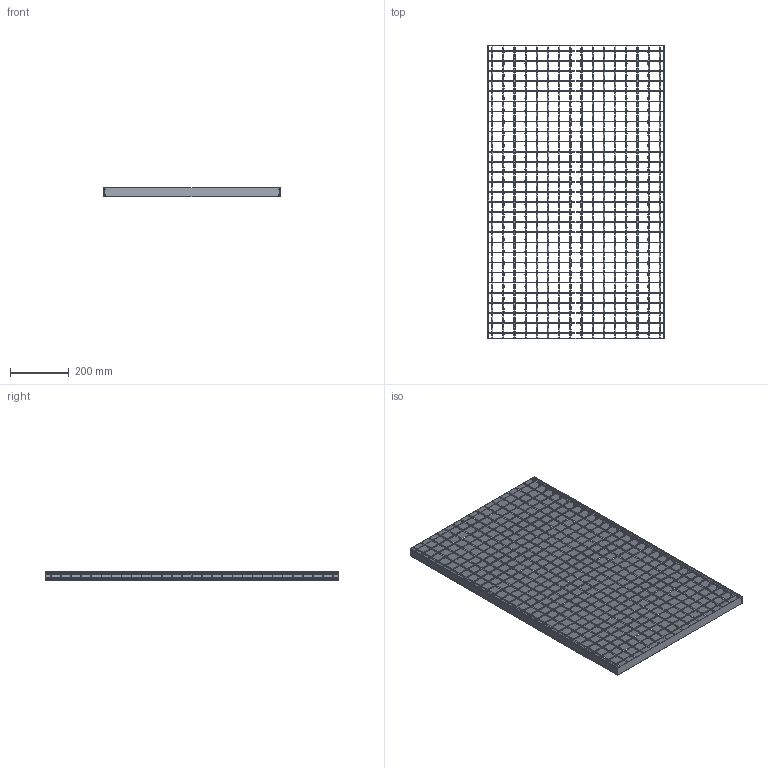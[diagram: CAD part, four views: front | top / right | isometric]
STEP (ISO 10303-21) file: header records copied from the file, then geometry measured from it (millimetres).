
FILE_DESCRIPTION(/* description */ ('STEP AP242','CAx-IF Rec.Pracs.---Representation and Presentation of Product Manufacturing Information (PMI)---4.0---2014-10-13','CAx-IF Rec.Pracs.---3D Tessellated Geometry---0.4---2014-09-14','2;1'),/* implementation_level */ '2;1');
FILE_NAME(/* name */ 'Lichtgitter_Forge_welded_gratings SP 230-34_38-2-1-1-600-1000_(350_1_0)',/* time_stamp */ '2026-04-23T13:28:59+02:00',/* author */ ('License CC BY-ND 4.0'),/* organization */ ('CADENAS'),/* preprocessor_version */ 'ST-DEVELOPER v20',/* originating_system */ 'PARTsolutions',/* authorisation */ ' ');
FILE_SCHEMA (('AP242_MANAGED_MODEL_BASED_3D_ENGINEERING_MIM_LF { 1 0 10303 442 1 1 4 }'));
Length unit declared in the file: millimetre
Products named in the file (5): Lichtgitter_Forge_welded_gratings SP 230-34/38-2-1-1-600-1000_(350_1_
0); Lichtgitter SP 230-34/38-2_(350_1_2_600_1000_Schweisspressroste)_VERT
ICAL_SIDES; Lichtgitter SP 230-34/38-2_(350_1_2_600_1000_Schweisspressroste)_HORI
ZONTAL_C; Lichtgitter SP 230-34/38-2_(350_1_2_600_1000_Schweisspressroste)_HORI
ZONTAL_SIDES; Lichtgitter SP 3.46530-34/38-3.465_(350_1_2_600_1000_Schweisspressros
te)_VERTICAL_C
Assembly tree (49 placements, depth 2):
  Lichtgitter_Forge_welded_gratings SP 230-34/38-2-1-1-600-1000_(350_1_
0)
    Lichtgitter SP 230-34/38-2_(350_1_2_600_1000_Schweisspressroste)_VERT
ICAL_SIDES  x2
    Lichtgitter SP 230-34/38-2_(350_1_2_600_1000_Schweisspressroste)_HORI
ZONTAL_C  x29
    Lichtgitter SP 230-34/38-2_(350_1_2_600_1000_Schweisspressroste)_HORI
ZONTAL_SIDES  x2
    Lichtgitter SP 3.46530-34/38-3.465_(350_1_2_600_1000_Schweisspressros
te)_VERTICAL_C  x16
Bounding box: 600 x 1000 x 30.72 mm (x, y, z)
Volume: 1402737.6 mm3; surface area: 1525106.8 mm2
Topology: 49 solids, 49 shells, 4382 faces, 9716 edges, 5432 vertices
Faces by surface type: bspline 3200, plane 702, cylinder 480
Entity records: 8099 total; most frequent: CARTESIAN_POINT 2614, ORIENTED_EDGE 1144, DIRECTION 844, EDGE_CURVE 572, LINE 520, VECTOR 520, VERTEX_POINT 316, EDGE_LOOP 264
